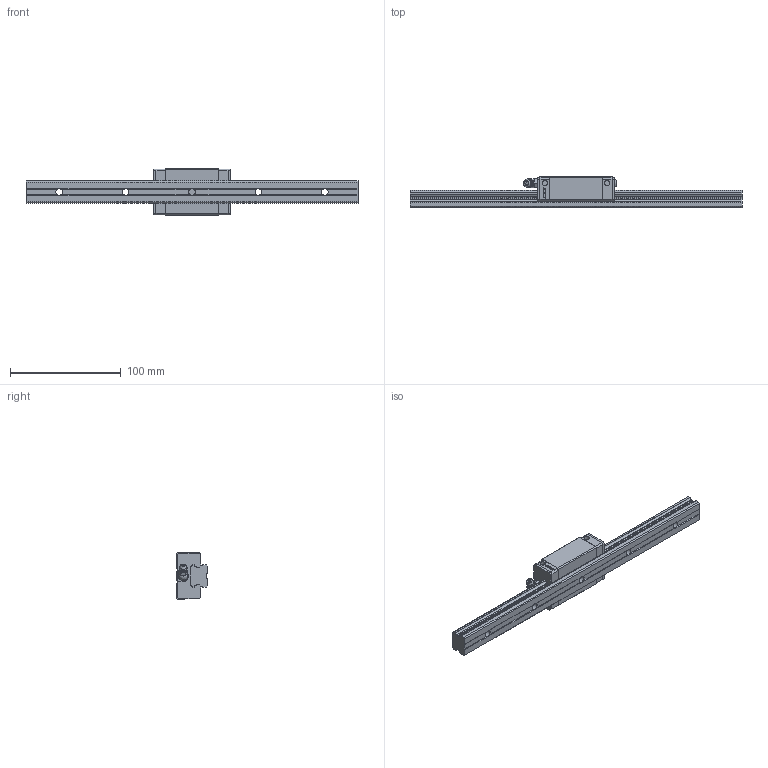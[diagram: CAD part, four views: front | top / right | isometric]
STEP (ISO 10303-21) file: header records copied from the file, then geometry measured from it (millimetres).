
FILE_DESCRIPTION(/* description */ (''),/* implementation_level */ '2;1');
FILE_NAME(/* name */ 'D:\3D網頁資料庫\Download\3D\EGH20CA1R300Z0C_GW202101009165\EGH20CA1R300Z0C_GW202101009165.stp',/* time_stamp */ '2021-01-20T14:59:22+08:00',/* author */ ('tim.lin'),/* organization */ (''),/* preprocessor_version */ 'ST-DEVELOPER v16.13',/* originating_system */ 'Autodesk Inventor 2018',/* authorisation */ '');
FILE_SCHEMA (('AUTOMOTIVE_DESIGN { 1 0 10303 214 3 1 1 }'));
Products named in the file (5): EGH20CA1R300Z0C_GW202101009165; EGR20_temp-1; EGH20C_右封_temp; 34320001; M6H
Assembly tree (4 placements, depth 2):
  EGH20CA1R300Z0C_GW202101009165
    EGR20_temp-1
    EGH20C_右封_temp
    34320001
    M6H
Bounding box: 300 x 28 x 42 mm (x, y, z)
Volume: 130426.7 mm3; surface area: 43399.4 mm2
Topology: 8 solids, 9 shells, 834 faces, 2252 edges, 1466 vertices
Faces by surface type: plane 558, cylinder 181, bspline 61, cone 30, sphere 3, torus 1
Full cylindrical faces by diameter (mm): 1 x2, 2 x1, 4.134 x4, 5 x4, 6 x11, 7.3 x2, 8 x2, 9.5 x5
Entity records: 27405 total; most frequent: CARTESIAN_POINT 6500, ORIENTED_EDGE 4412, DIRECTION 4083, EDGE_CURVE 2206, LINE 1631, VECTOR 1631, VERTEX_POINT 1456, AXIS2_PLACEMENT_3D 1226
